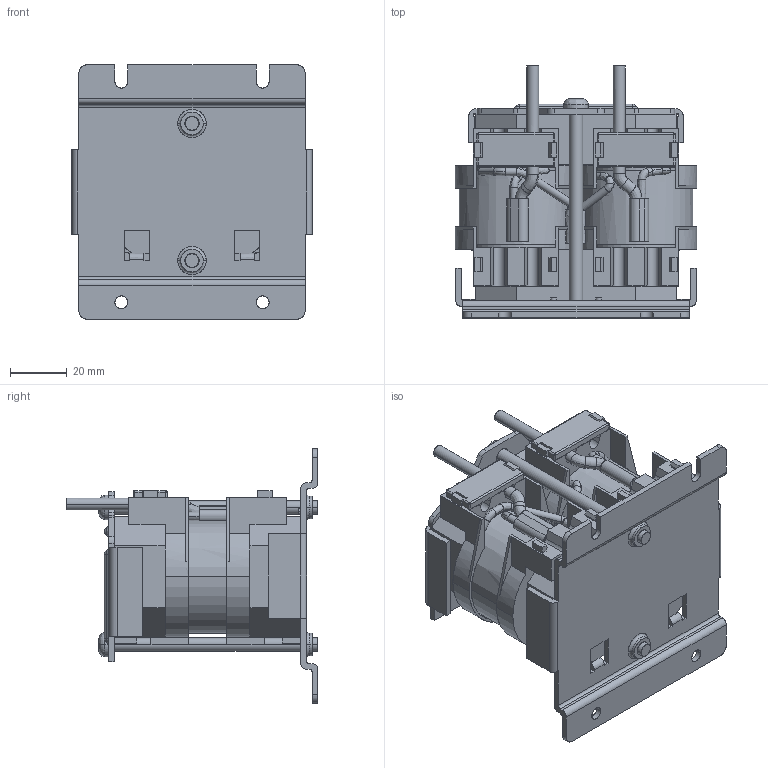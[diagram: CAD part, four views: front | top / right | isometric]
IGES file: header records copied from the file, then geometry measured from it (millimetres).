
Start section: SolidWorks IGES file using analytic representation for surfaces
Global section: file name: \\10.106.230.1\r&d file\05_COMP\02_Mechanical\10_Others\PV_RT 81\网络用3D模型\立式\网络用模型\3KW_S_DCL.IGS; native system: SolidWorks 2009; preprocessor: SolidWorks 2009; author: 钱雅婧,,1; organization: 1; date: 120508.142910; units: millimetre
Bounding box: 85.4 x 89 x 90 mm (x, y, z)
Surface area: 82871.8 mm2 (no closed solid volume)
Topology: 0 solids, 0 shells, 743 faces, 6442 edges, 6426 vertices
Faces by surface type: bspline 488, revolution 255
